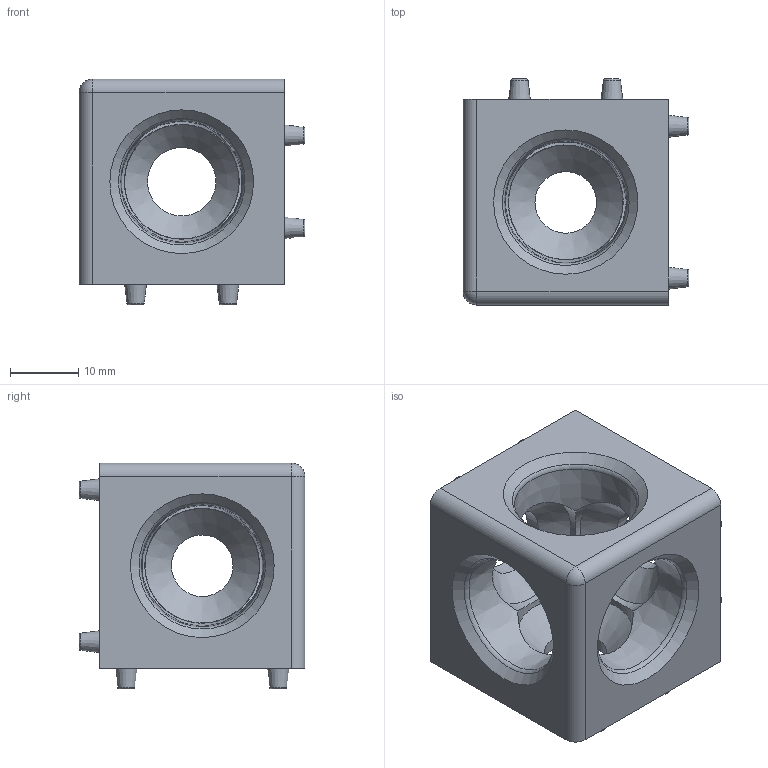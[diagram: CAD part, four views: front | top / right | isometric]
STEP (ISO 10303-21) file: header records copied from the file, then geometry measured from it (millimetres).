
FILE_DESCRIPTION(/* description */ ('www.motedis.com/part/S8BCC3D30','CAx-IF Rec.Pracs.---Representation and Presentation of Product Manufacturing Information (PMI)---4.0---2014-10-13'),/* implementation_level */ '2;1');
FILE_NAME(/* name */ 'Motedis_S8BCC3D30.stp',/* time_stamp */ '2026-10-15T12:31:22+02:00',/* author */ ('Motedis'),/* organization */ ('Motedis GmbH'),/* preprocessor_version */ 'ST-DEVELOPER v20.1',/* originating_system */ 'Autodesk Inventor 2026',/* authorisation */ 'Motedis GmbH');
FILE_SCHEMA (('AP242_MANAGED_MODEL_BASED_3D_ENGINEERING_MIM_LF { 1 0 10303 442 2 1 4 }'));
Length unit declared in the file: millimetre
Products named in the file (1): Motedis_S8BCC3D30
Bounding box: 33 x 33 x 33 mm (x, y, z)
Volume: 13903.1 mm3; surface area: 6872.9 mm2
Topology: 1 solids, 1 shells, 73 faces, 169 edges, 105 vertices
Faces by surface type: plane 27, cone 24, torus 15, cylinder 6, sphere 1
Full cylindrical faces by diameter (mm): 9 x2, 10 x1
Entity records: 2269 total; most frequent: DIRECTION 447, CARTESIAN_POINT 368, ORIENTED_EDGE 336, AXIS2_PLACEMENT_3D 189, EDGE_CURVE 168, VERTEX_POINT 105, EDGE_LOOP 91, CIRCLE 82
